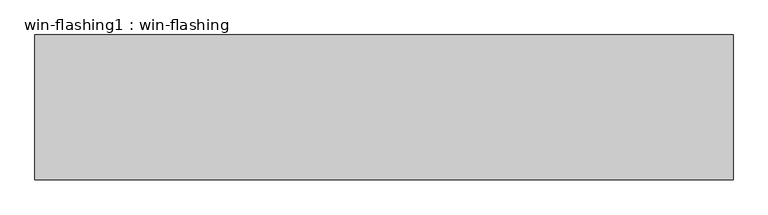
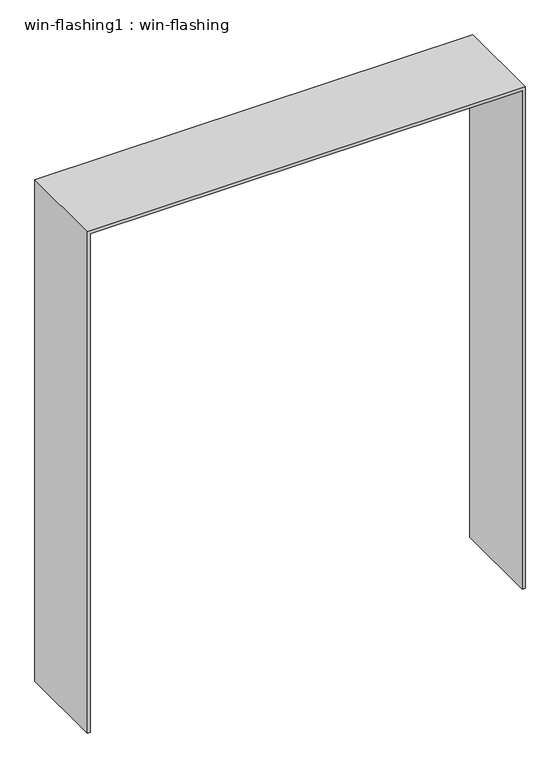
"""IFC4 building model written with IfcOpenShell, lengths in millimetres: beam geometry, win-flashing1 : win-flashing."""

from ifc_helpers import new_model, si_unit, frame, origin, place, context, project, spatial, polyline, outline, extrude, source, transform, mapped, element, save


def win_flashing1_win_flashing_b7f60e38(model_context):
    return source(origin(), model_context, "Body", "SweptSolid", [
        extrude(outline(polyline([(12940.0, -1790.5666589), (12940.0, -1780.5666589), (14780.0, -1780.5666589), (14780.0, -3300.5666589), (12940.0, -3300.5666589), (12940.0, -3290.5666589), (14770.0, -3290.5666589), (14770.0, -1790.5666589), (12940.0, -1790.5666589)])), frame((0.0, -5904.4647185, 0.0), z_axis=(0.0, 1.0, 0.0), x_axis=(0.0, 0.0, 1.0)), (0.0, 0.0, 1.0), 315.0),
    ])


if __name__ == "__main__":
    model = new_model("IFC4")
    model_context = context("Model", 3, world=origin())
    ifc_project = project(units=[si_unit("LENGTHUNIT", "METRE", prefix="MILLI")], contexts=[model_context])
    site = spatial("IfcSite", under=ifc_project)
    building = spatial("IfcBuilding", under=site)
    placement = place(None, origin())
    win_flashing1_win_flashing_shape = win_flashing1_win_flashing_b7f60e38(model_context)
    element("IfcBeam", 1, ObjectType="win-flashing1 : win-flashing", at=placement, inside=building, context=model_context, shape_type="MappedRepresentation", body=[
        mapped(win_flashing1_win_flashing_shape, transform((0.0, 0.0, 0.0), x_axis=(1.0, 0.0, 0.0), y_axis=(0.0, 1.0, 0.0), z_axis=(0.0, 0.0, 1.0))),
    ])
    save(model, "model.ifc")
